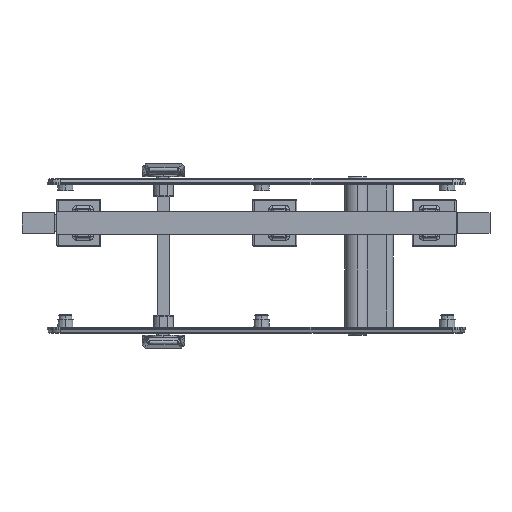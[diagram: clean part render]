
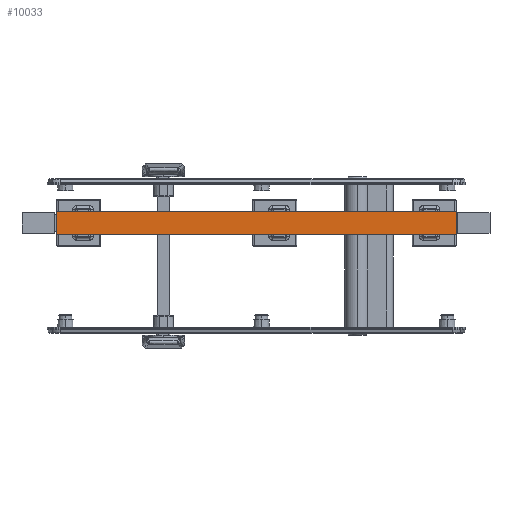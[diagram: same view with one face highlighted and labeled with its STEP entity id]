
A CAD part, left-side view. The second image highlights one B-rep face of the part: STEP entity #10033.
In plain terms, the highlighted planar face has unit normal (-1, 0, 0).
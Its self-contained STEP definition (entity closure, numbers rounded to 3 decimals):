
#429 = VERTEX_POINT ( 'NONE', #11338 ) ;
#1530 = DIRECTION ( 'NONE',  ( 1., 0., 0. ) ) ;
#1727 = CARTESIAN_POINT ( 'NONE',  ( -16., 72.75, -7.75 ) ) ;
#3675 = ORIENTED_EDGE ( 'NONE', *, *, #10664, .F. ) ;
#5482 = CARTESIAN_POINT ( 'NONE',  ( -16., 72.75, 7.75 ) ) ;
#5501 = LINE ( 'NONE', #1727, #25389 ) ;
#6107 = LINE ( 'NONE', #48040, #6190 ) ;
#6190 = VECTOR ( 'NONE', #37694, 1000. ) ;
#6614 = ORIENTED_EDGE ( 'NONE', *, *, #35201, .T. ) ;
#9067 = DIRECTION ( 'NONE',  ( 0., 1., 0. ) ) ;
#9378 = VERTEX_POINT ( 'NONE', #30242 ) ;
#10033 = ADVANCED_FACE ( 'NONE', ( #20580 ), #34912, .F. ) ;
#10664 = EDGE_CURVE ( 'NONE', #9378, #429, #11846, .T. ) ;
#11338 = CARTESIAN_POINT ( 'NONE',  ( -16., -199.25, -7.75 ) ) ;
#11846 = LINE ( 'NONE', #26396, #21654 ) ;
#12180 = VERTEX_POINT ( 'NONE', #40601 ) ;
#15094 = DIRECTION ( 'NONE',  ( 0., 0., -1. ) ) ;
#16526 = EDGE_CURVE ( 'NONE', #12180, #9378, #28753, .T. ) ;
#17254 = DIRECTION ( 'NONE',  ( 0., -1., 0. ) ) ;
#20342 = CARTESIAN_POINT ( 'NONE',  ( -16., 72.75, -7.75 ) ) ;
#20580 = FACE_OUTER_BOUND ( 'NONE', #47717, .T. ) ;
#21355 = VECTOR ( 'NONE', #40286, 1000. ) ;
#21654 = VECTOR ( 'NONE', #15094, 1000. ) ;
#23274 = AXIS2_PLACEMENT_3D ( 'NONE', #35912, #1530, #9067 ) ;
#25389 = VECTOR ( 'NONE', #17254, 1000. ) ;
#26396 = CARTESIAN_POINT ( 'NONE',  ( -16., -199.25, 7.75 ) ) ;
#28753 = LINE ( 'NONE', #5482, #21355 ) ;
#30242 = CARTESIAN_POINT ( 'NONE',  ( -16., -199.25, 7.75 ) ) ;
#32617 = ORIENTED_EDGE ( 'NONE', *, *, #40407, .T. ) ;
#33345 = ORIENTED_EDGE ( 'NONE', *, *, #16526, .F. ) ;
#34912 = PLANE ( 'NONE',  #23274 ) ;
#35201 = EDGE_CURVE ( 'NONE', #12180, #42784, #6107, .T. ) ;
#35912 = CARTESIAN_POINT ( 'NONE',  ( -16., 72.75, 7.75 ) ) ;
#37694 = DIRECTION ( 'NONE',  ( 0., 0., -1. ) ) ;
#40286 = DIRECTION ( 'NONE',  ( 0., -1., 0. ) ) ;
#40407 = EDGE_CURVE ( 'NONE', #42784, #429, #5501, .T. ) ;
#40601 = CARTESIAN_POINT ( 'NONE',  ( -16., 72.75, 7.75 ) ) ;
#42784 = VERTEX_POINT ( 'NONE', #20342 ) ;
#47717 = EDGE_LOOP ( 'NONE', ( #32617, #3675, #33345, #6614 ) ) ;
#48040 = CARTESIAN_POINT ( 'NONE',  ( -16., 72.75, 7.75 ) ) ;
